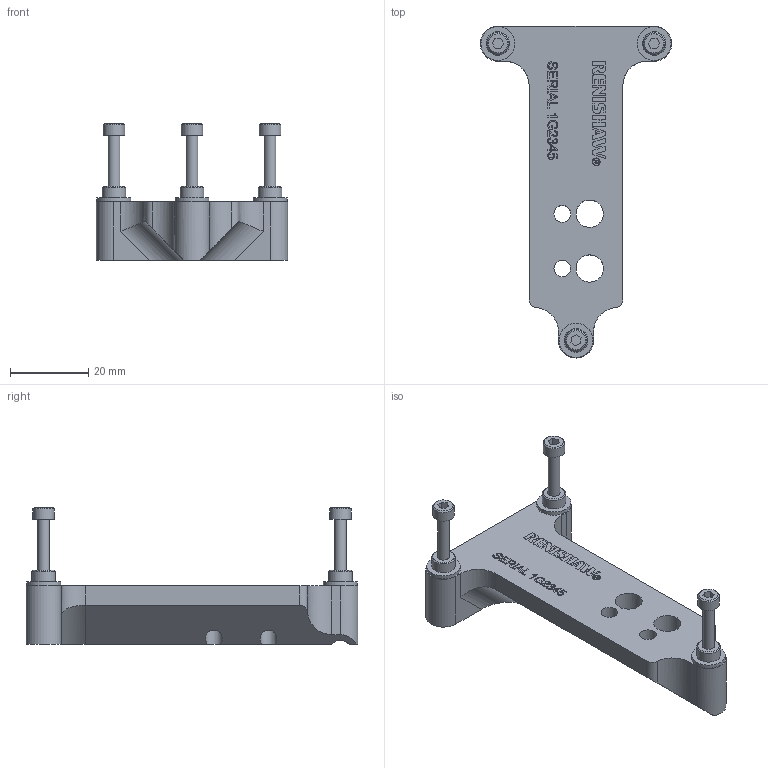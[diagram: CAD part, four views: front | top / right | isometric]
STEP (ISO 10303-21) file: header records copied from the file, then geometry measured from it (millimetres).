
FILE_DESCRIPTION(/* description */ (''),/* implementation_level */ '2;1');
FILE_NAME(/* name */ 'A_5225_0569_01_D RLD DI ALIGNMENT AID KIT.stp',/* time_stamp */ '2010-01-27T11:28:03+00:00',/* author */ (''),/* organization */ (''),/* preprocessor_version */ 'ST-DEVELOPER v11',/* originating_system */ 'SIEMENS UGS NX 6.0',/* authorisation */ '');
FILE_SCHEMA (('AUTOMOTIVE_DESIGN { 1 0 10303 214 1 1 1 1 }'));
Length unit declared in the file: millimetre
Products named in the file (1): ad1321CAwbz3
Bounding box: 49 x 85 x 35 mm (x, y, z)
Volume: 23347.6 mm3; surface area: 10222.5 mm2
Topology: 4 solids, 4 shells, 439 faces, 1144 edges, 759 vertices
Faces by surface type: plane 259, extrusion 123, cylinder 45, cone 12
Full cylindrical faces by diameter (mm): 1.8 x1, 2 x1, 3 x3, 3.2 x3, 3.4 x3, 4.3 x2, 5.045 x1, 5.5 x3, 5.8 x1, 6 x3, 6.015 x3, 6.03 x3, 7 x2, 8.7 x3
Entity records: 13674 total; most frequent: CARTESIAN_POINT 3269, ORIENTED_EDGE 2182, DIRECTION 1714, EDGE_CURVE 1091, VECTOR 856, VERTEX_POINT 748, LINE 733, EDGE_LOOP 541
